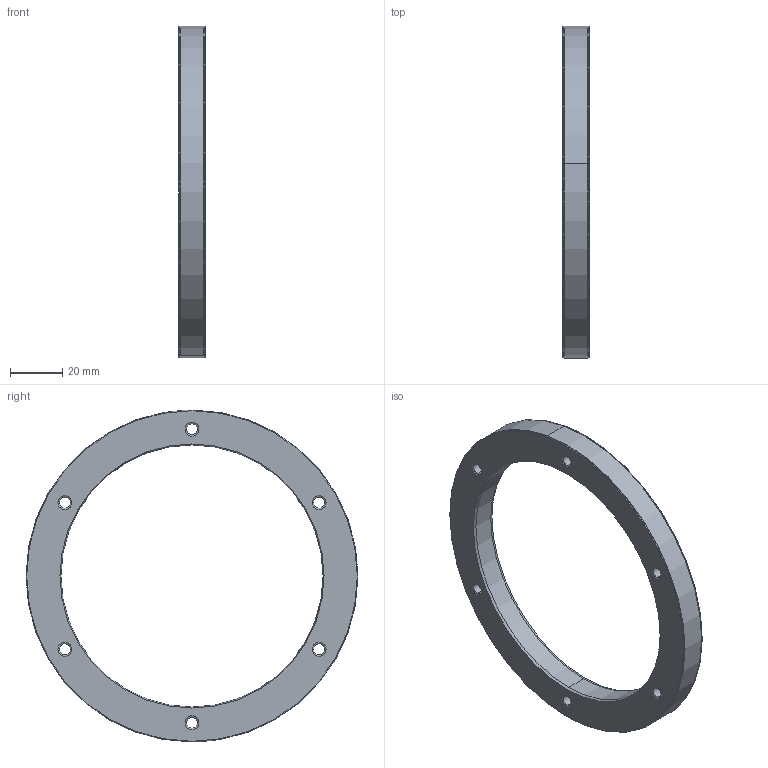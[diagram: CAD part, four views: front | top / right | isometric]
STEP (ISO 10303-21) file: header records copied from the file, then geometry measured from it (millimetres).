
FILE_DESCRIPTION (( 'STEP AP214' ), '1' );
FILE_NAME ('MR127U100.STEP', '2021-09-21T13:47:42', ( '' ), ( '' ), 'SwSTEP 2.0', 'SolidWorks 2020', '' );
FILE_SCHEMA (( 'AUTOMOTIVE_DESIGN' ));
Length unit declared in the file: millimetre
Products named in the file (1): MR127U100
Bounding box: 10 x 126.65 x 126.65 mm (x, y, z)
Volume: 46440.5 mm3; surface area: 16955.5 mm2
Topology: 1 solids, 1 shells, 462 faces, 1217 edges, 802 vertices
Faces by surface type: plane 251, bspline 147, cylinder 32, cone 28, torus 4
Entity records: 26063 total; most frequent: CARTESIAN_POINT 10453, ORIENTED_EDGE 2434, DIRECTION 1659, EDGE_CURVE 1217, LINE 819, VECTOR 819, VERTEX_POINT 802, EDGE_LOOP 521
